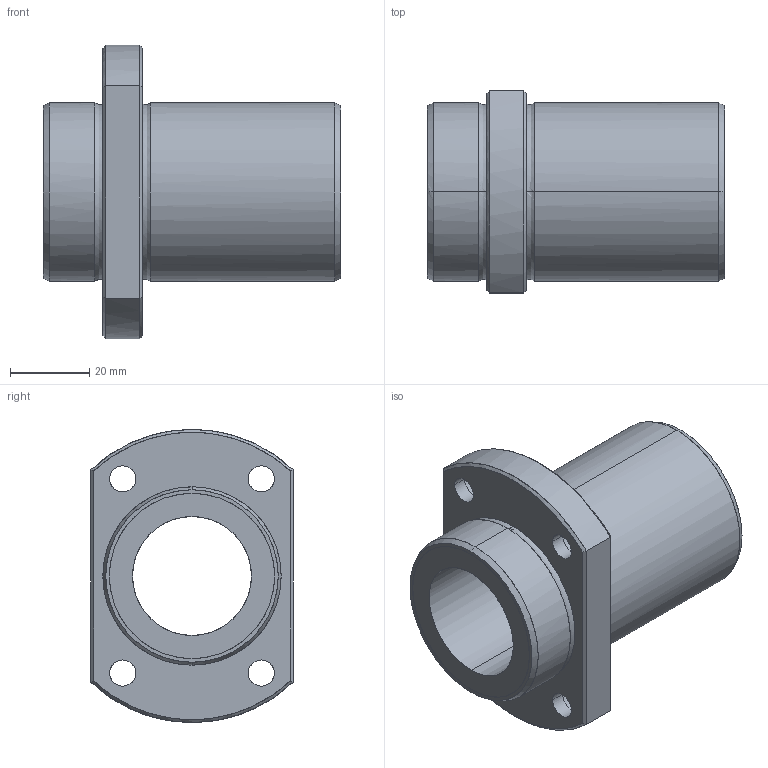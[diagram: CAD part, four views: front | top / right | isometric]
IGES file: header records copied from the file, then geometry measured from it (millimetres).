
Global section: file name: No Iges File Name specified; native system: AutoDesk Inventor R11.0; preprocessor: AutoDesk Inventor Iges Exporter R11.0; author: No Author specified; organization: No Organization specified; date: 20170921.135232; units: millimetre
Bounding box: 75 x 51 x 73.99 mm (x, y, z)
Surface area: 24652.5 mm2 (no closed solid volume)
Topology: 0 solids, 0 shells, 57 faces, 368 edges, 368 vertices
Faces by surface type: bspline 57
